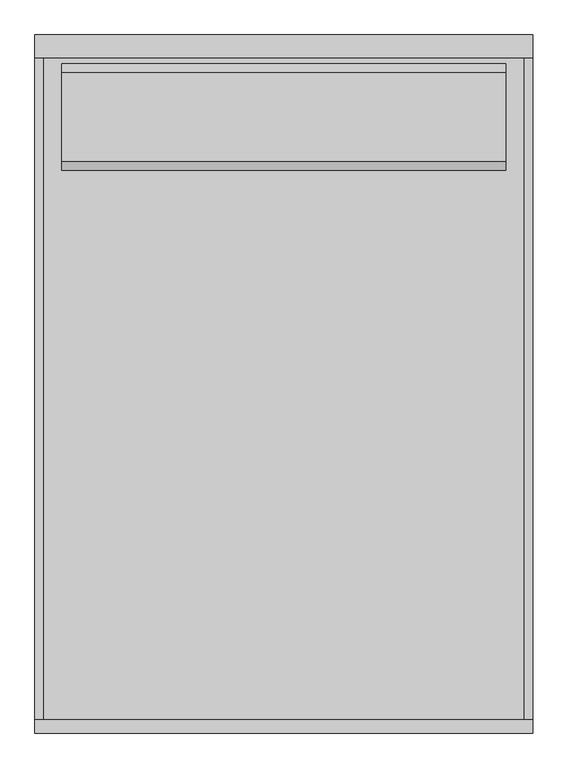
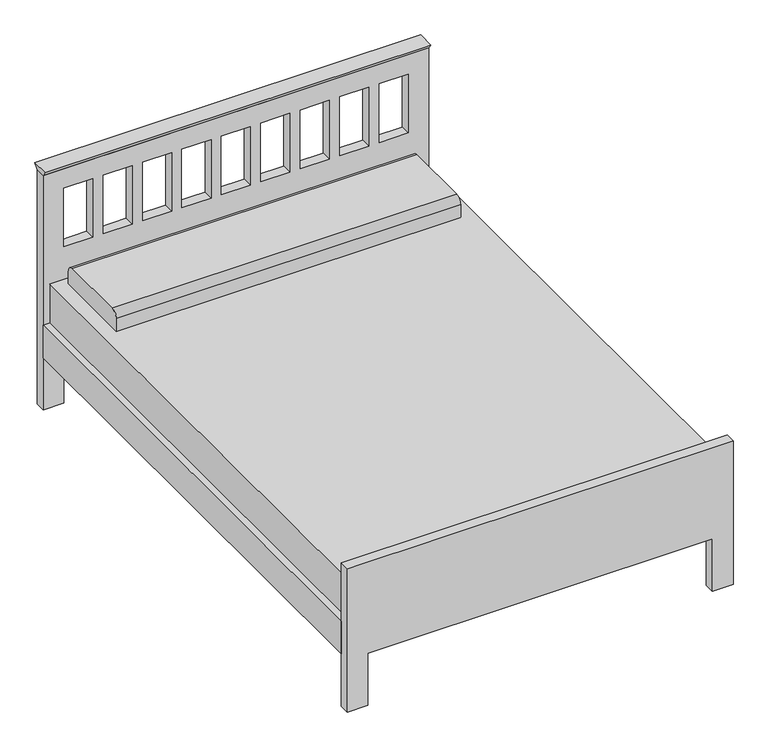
"""IFC4 building model written with IfcOpenShell, lengths in millimetres: furniture geometry, 침대-흔들장치 : 1422 x 1981mm - 이중."""

from ifc_helpers import new_model, si_unit, point, frame, frame_2d, origin, place, context, project, spatial, polyline, circle_curve, trimmed, segment, composite_curve, outline, extrude, source, transform, mapped, element, save


def furniture_ea7191d8(model_context):
    return source(origin(), model_context, "Body", "SweptSolid", [
        extrude(outline(polyline([(-38.1, 914.4), (-51.9545455, 933.45), (13.8545455, 933.45), (0.0, 914.4), (-38.1, 914.4)])), frame((-729.8365546, 0.0, 0.0), z_axis=(1.0, 0.0, 0.0), x_axis=(0.0, 1.0, 0.0)), (0.0, 0.0, 1.0), 1422.0533613),
        extrude(outline(composite_curve([segment(polyline([(-373.2486637, 482.6), (-373.2486637, 533.4)]), True, "CONTINUOUS"), segment(trimmed(circle_curve(frame_2d((-347.8486637, 533.4)), 25.4), [point((-373.2486637, 533.4))], [point((-347.8486637, 558.8))], False, "CARTESIAN"), True, "CONTINUOUS"), segment(polyline([(-347.8486637, 558.8), (-93.8486637, 558.8)]), True, "CONTINUOUS"), segment(trimmed(circle_curve(frame_2d((-93.8486637, 533.4)), 25.4), [point((-93.8486637, 558.8))], [point((-68.4486637, 533.4))], False, "CARTESIAN"), True, "CONTINUOUS"), segment(polyline([(-68.4486637, 533.4), (-68.4486637, 482.6), (-373.2486637, 482.6)]), True, "CONTINUOUS")], self_intersect=False)), frame((-653.85, 0.0, 0.0), z_axis=(1.0, 0.0, 0.0), x_axis=(0.0, 1.0, 0.0)), (0.0, 0.0, 1.0), 1269.6),
        extrude(outline(polyline([(666.55, -38.1), (666.55, -1942.9), (-704.65, -1942.9), (-704.65, -38.1), (666.55, -38.1)])), frame((0.0, 0.0, 228.6), z_axis=(0.0, 0.0, 1.0), x_axis=(1.0, 0.0, 0.0)), (0.0, 0.0, 1.0), 254.0),
        extrude(outline(polyline([(666.55, -1942.9), (666.55, -38.1), (691.95, -38.1), (691.95, -1942.9), (666.55, -1942.9)])), frame((0.0, 0.0, 203.0994861), z_axis=(0.0, 0.0, 1.0), x_axis=(1.0, 0.0, 0.0)), (0.0, 0.0, 1.0), 127.0),
        extrude(outline(polyline([(-730.05, -1942.9), (-730.05, -38.1), (-704.65, -38.1), (-704.65, -1942.9), (-730.05, -1942.9)])), frame((0.0, 0.0, 203.5755296), z_axis=(0.0, 0.0, 1.0), x_axis=(1.0, 0.0, 0.0)), (0.0, 0.0, 1.0), 127.0),
        extrude(outline(polyline([(0.0, -653.85), (203.2, -653.85), (203.2, 615.75), (0.0, 615.75), (0.0, 691.95), (558.8, 691.95), (558.8, -730.05), (0.0, -730.05), (0.0, -653.85)])), frame((0.0, -1981.0, 0.0), z_axis=(0.0, 1.0, 0.0), x_axis=(0.0, 0.0, 1.0)), (0.0, 0.0, 1.0), 38.1),
        extrude(outline(polyline([(914.4, 692.2168067), (914.4, -729.8365546), (0.0, -729.8365546), (0.0, -653.85), (203.2, -653.85), (203.2, 615.75), (0.0, 615.75), (0.0, 692.2168067), (914.4, 692.2168067)]), holes=[polyline([(838.2, -546.65), (609.6, -546.65), (609.6, -653.85), (838.2, -653.85), (838.2, -546.65)]), polyline([(838.2, -401.35), (609.6, -401.35), (609.6, -508.55), (838.2, -508.55), (838.2, -401.35)]), polyline([(838.2, -256.05), (609.6, -256.05), (609.6, -363.25), (838.2, -363.25), (838.2, -256.05)]), polyline([(838.2, -110.75), (609.6, -110.75), (609.6, -217.95), (838.2, -217.95), (838.2, -110.75)]), polyline([(838.2, 179.85), (609.6, 179.85), (609.6, 72.65), (838.2, 72.65), (838.2, 179.85)]), polyline([(838.2, 325.15), (609.6, 325.15), (609.6, 217.95), (838.2, 217.95), (838.2, 325.15)]), polyline([(838.2, 470.45), (609.6, 470.45), (609.6, 363.25), (838.2, 363.25), (838.2, 470.45)]), polyline([(838.2, 615.75), (609.6, 615.75), (609.6, 508.55), (838.2, 508.55), (838.2, 615.75)]), polyline([(838.2, 34.55), (609.6, 34.55), (609.6, -72.65), (838.2, -72.65), (838.2, 34.55)])]), frame((0.0, -38.1, 0.0), z_axis=(0.0, 1.0, 0.0), x_axis=(0.0, 0.0, 1.0)), (0.0, 0.0, 1.0), 38.1),
    ])


if __name__ == "__main__":
    model = new_model("IFC4")
    model_context = context("Model", 3, world=origin())
    ifc_project = project(units=[si_unit("LENGTHUNIT", "METRE", prefix="MILLI")], contexts=[model_context])
    site = spatial("IfcSite", under=ifc_project)
    building = spatial("IfcBuilding", under=site)
    placement = place(None, origin())
    furniture_shape = furniture_ea7191d8(model_context)
    element("IfcFurniture", 1, ObjectType="침대-흔들장치 : 1422 x 1981mm - 이중", at=placement, inside=building, context=model_context, shape_type="MappedRepresentation", body=[
        mapped(furniture_shape, transform((0.0, 0.0, 0.0), x_axis=(1.0, 0.0, 0.0), y_axis=(0.0, 1.0, 0.0), z_axis=(0.0, 0.0, 1.0))),
    ])
    save(model, "model.ifc")
